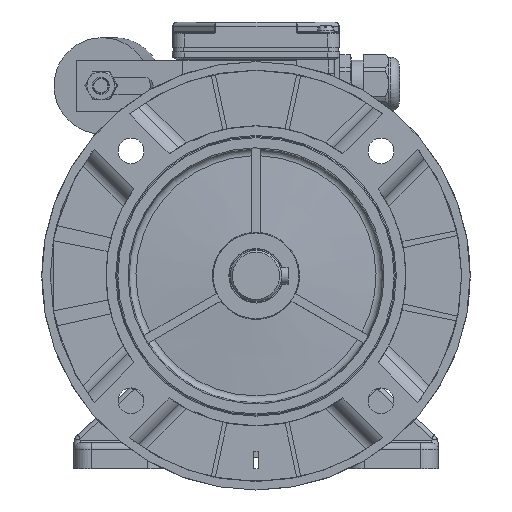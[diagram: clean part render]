
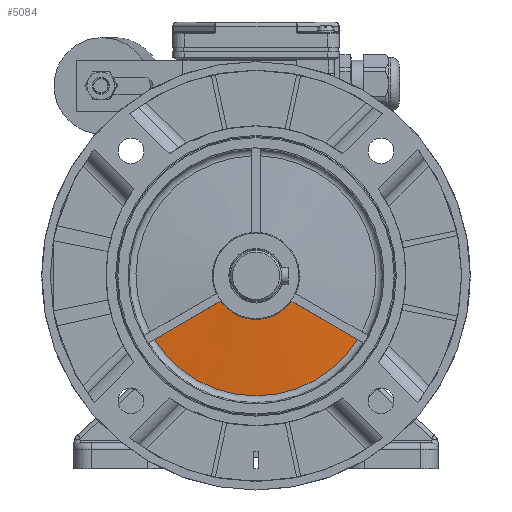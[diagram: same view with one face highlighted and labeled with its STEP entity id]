
A CAD part, left-side view. The second image highlights one B-rep face of the part: STEP entity #5084.
In plain terms, the highlighted conical face has half-angle 85.7 degrees and reference radius 56.036 mm.
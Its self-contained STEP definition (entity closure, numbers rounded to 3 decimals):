
#5084 = ADVANCED_FACE( '', ( #11211 ), #11212, .T. );
#11211 = FACE_OUTER_BOUND( '', #20984, .T. );
#11212 = CONICAL_SURFACE( '', #20985, 56.036, 1.496 );
#20984 = EDGE_LOOP( '', ( #38072, #38073, #38074, #38075 ) );
#20985 = AXIS2_PLACEMENT_3D( '', #38076, #38077, #38078 );
#38072 = ORIENTED_EDGE( '', *, *, #72857, .F. );
#38073 = ORIENTED_EDGE( '', *, *, #72858, .F. );
#38074 = ORIENTED_EDGE( '', *, *, #72859, .F. );
#38075 = ORIENTED_EDGE( '', *, *, #71540, .T. );
#38076 = CARTESIAN_POINT( '', ( 0., 0., 16.952 ) );
#38077 = DIRECTION( '', ( 0., 0., 1. ) );
#38078 = DIRECTION( '', ( 1., 0., 0. ) );
#71540 = EDGE_CURVE( '', #89019, #89016, #89020, .T. );
#72857 = EDGE_CURVE( '', #90978, #89016, #90979, .T. );
#72858 = EDGE_CURVE( '', #90980, #90978, #90981, .T. );
#72859 = EDGE_CURVE( '', #89019, #90980, #90982, .T. );
#89016 = VERTEX_POINT( '', #106918 );
#89019 = VERTEX_POINT( '', #106927 );
#89020 = CIRCLE( '', #106928, 20.327 );
#90978 = VERTEX_POINT( '', #110081 );
#90979 = B_SPLINE_CURVE_WITH_KNOTS( '', 3, ( #110082, #110083, #110084, #110085 ), .UNSPECIFIED., .F., .F., ( 4, 4 ), ( 0.023, 0.059 ), .UNSPECIFIED. );
#90980 = VERTEX_POINT( '', #110086 );
#90981 = CIRCLE( '', #110087, 56.036 );
#90982 = B_SPLINE_CURVE_WITH_KNOTS( '', 3, ( #110088, #110089, #110090, #110091 ), .UNSPECIFIED., .F., .F., ( 4, 4 ), ( 0.025, 0.061 ), .UNSPECIFIED. );
#106918 = CARTESIAN_POINT( '', ( 16.519, -11.846, 14.267 ) );
#106927 = CARTESIAN_POINT( '', ( -16.519, -11.846, 14.267 ) );
#106928 = AXIS2_PLACEMENT_3D( '', #125697, #125698, #125699 );
#110081 = CARTESIAN_POINT( '', ( 47.497, -29.732, 16.952 ) );
#110082 = CARTESIAN_POINT( '', ( 47.497, -29.732, 16.952 ) );
#110083 = CARTESIAN_POINT( '', ( 37.171, -23.77, 16.056 ) );
#110084 = CARTESIAN_POINT( '', ( 26.845, -17.808, 15.159 ) );
#110085 = CARTESIAN_POINT( '', ( 16.519, -11.846, 14.267 ) );
#110086 = CARTESIAN_POINT( '', ( -47.497, -29.732, 16.952 ) );
#110087 = AXIS2_PLACEMENT_3D( '', #127293, #127294, #127295 );
#110088 = CARTESIAN_POINT( '', ( -16.519, -11.846, 14.267 ) );
#110089 = CARTESIAN_POINT( '', ( -26.845, -17.808, 15.159 ) );
#110090 = CARTESIAN_POINT( '', ( -37.171, -23.77, 16.056 ) );
#110091 = CARTESIAN_POINT( '', ( -47.497, -29.732, 16.952 ) );
#125697 = CARTESIAN_POINT( '', ( 0., 0., 14.267 ) );
#125698 = DIRECTION( '', ( 0., 0., 1. ) );
#125699 = DIRECTION( '', ( 1., 0., 0. ) );
#127293 = CARTESIAN_POINT( '', ( 0., 0., 16.952 ) );
#127294 = DIRECTION( '', ( 0., 0., 1. ) );
#127295 = DIRECTION( '', ( 1., 0., 0. ) );
